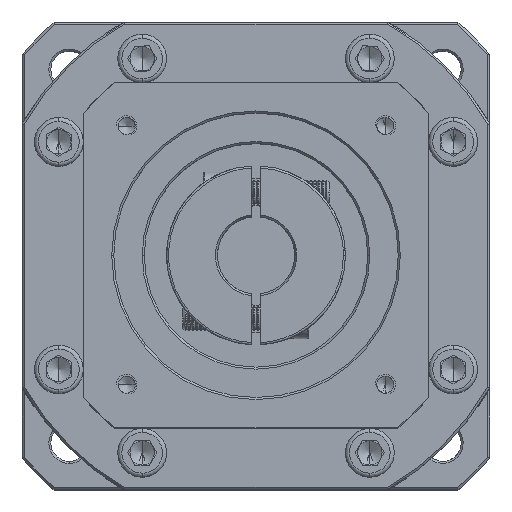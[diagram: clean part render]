
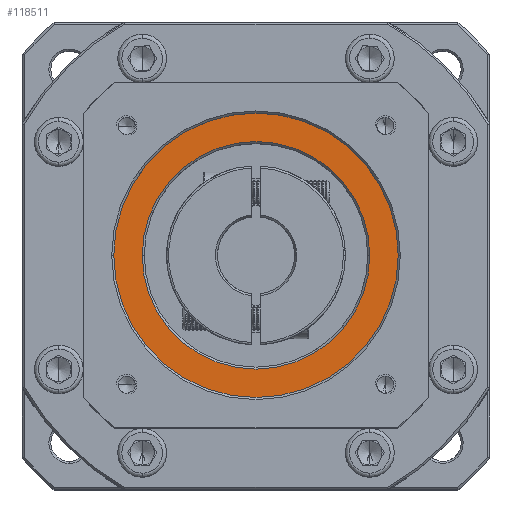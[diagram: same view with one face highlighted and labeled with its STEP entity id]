
A CAD part, top view. The second image highlights one B-rep face of the part: STEP entity #118511.
In plain terms, the highlighted planar face has unit normal (0, 0, 1).
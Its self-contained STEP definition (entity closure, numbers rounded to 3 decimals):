
#736 = CARTESIAN_POINT ( 'NONE',  ( -32.819, 51.337, -9.577 ) ) ;
#2887 = EDGE_CURVE ( 'NONE', #99901, #35716, #10967, .T. ) ;
#10967 = CIRCLE ( 'NONE', #69363, 35. ) ;
#14708 = ORIENTED_EDGE ( 'NONE', *, *, #105891, .T. ) ;
#17089 = CIRCLE ( 'NONE', #101101, 28. ) ;
#19886 = VERTEX_POINT ( 'NONE', #118965 ) ;
#21671 = CARTESIAN_POINT ( 'NONE',  ( -67.819, 51.337, -9.577 ) ) ;
#22418 = DIRECTION ( 'NONE',  ( 0., 0., -1. ) ) ;
#26834 = CARTESIAN_POINT ( 'NONE',  ( -39.819, 51.337, -9.577 ) ) ;
#27845 = DIRECTION ( 'NONE',  ( 0., 0., 1. ) ) ;
#31026 = DIRECTION ( 'NONE',  ( 1., 0., 0. ) ) ;
#31751 = EDGE_LOOP ( 'NONE', ( #14708, #37637 ) ) ;
#35716 = VERTEX_POINT ( 'NONE', #736 ) ;
#37637 = ORIENTED_EDGE ( 'NONE', *, *, #2887, .T. ) ;
#39489 = CARTESIAN_POINT ( 'NONE',  ( -102.819, 51.337, -9.577 ) ) ;
#48178 = CARTESIAN_POINT ( 'NONE',  ( -67.819, 51.337, -9.577 ) ) ;
#52957 = EDGE_CURVE ( 'NONE', #19886, #97031, #17089, .T. ) ;
#54529 = CARTESIAN_POINT ( 'NONE',  ( -67.819, 51.337, -9.577 ) ) ;
#57464 = DIRECTION ( 'NONE',  ( 1., 0., 0. ) ) ;
#60571 = AXIS2_PLACEMENT_3D ( 'NONE', #54529, #119325, #63805 ) ;
#63805 = DIRECTION ( 'NONE',  ( 1., 0., 0. ) ) ;
#65720 = CIRCLE ( 'NONE', #87118, 35. ) ;
#66091 = EDGE_LOOP ( 'NONE', ( #97063, #108548 ) ) ;
#66350 = PLANE ( 'NONE',  #106587 ) ;
#69363 = AXIS2_PLACEMENT_3D ( 'NONE', #21671, #86509, #31026 ) ;
#77943 = CARTESIAN_POINT ( 'NONE',  ( -67.819, 51.337, -9.577 ) ) ;
#81124 = CIRCLE ( 'NONE', #60571, 28. ) ;
#83318 = CARTESIAN_POINT ( 'NONE',  ( -67.819, 51.337, -9.577 ) ) ;
#86509 = DIRECTION ( 'NONE',  ( 0., 0., 1. ) ) ;
#87118 = AXIS2_PLACEMENT_3D ( 'NONE', #83318, #27845, #92655 ) ;
#87253 = DIRECTION ( 'NONE',  ( 1., 0., 0. ) ) ;
#90170 = EDGE_CURVE ( 'NONE', #97031, #19886, #81124, .T. ) ;
#92260 = FACE_OUTER_BOUND ( 'NONE', #31751, .T. ) ;
#92655 = DIRECTION ( 'NONE',  ( 1., 0., 0. ) ) ;
#97031 = VERTEX_POINT ( 'NONE', #26834 ) ;
#97063 = ORIENTED_EDGE ( 'NONE', *, *, #90170, .T. ) ;
#99901 = VERTEX_POINT ( 'NONE', #39489 ) ;
#101101 = AXIS2_PLACEMENT_3D ( 'NONE', #77943, #22418, #87253 ) ;
#105891 = EDGE_CURVE ( 'NONE', #35716, #99901, #65720, .T. ) ;
#106587 = AXIS2_PLACEMENT_3D ( 'NONE', #48178, #112962, #57464 ) ;
#108548 = ORIENTED_EDGE ( 'NONE', *, *, #52957, .T. ) ;
#112962 = DIRECTION ( 'NONE',  ( 0., 0., 1. ) ) ;
#116909 = FACE_BOUND ( 'NONE', #66091, .T. ) ;
#118511 = ADVANCED_FACE ( 'NONE', ( #92260, #116909 ), #66350, .T. ) ;
#118965 = CARTESIAN_POINT ( 'NONE',  ( -95.819, 51.337, -9.577 ) ) ;
#119325 = DIRECTION ( 'NONE',  ( 0., 0., -1. ) ) ;
